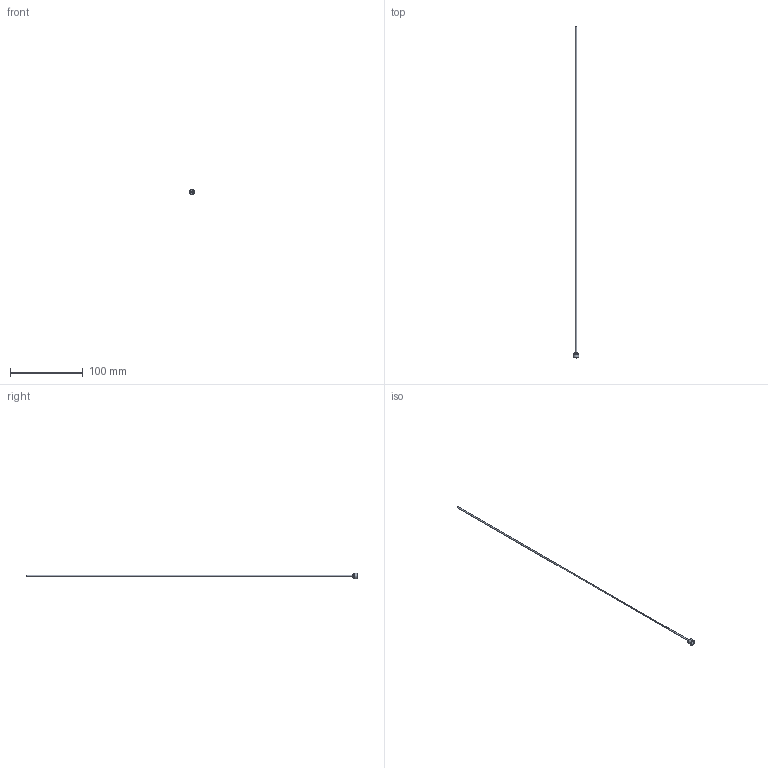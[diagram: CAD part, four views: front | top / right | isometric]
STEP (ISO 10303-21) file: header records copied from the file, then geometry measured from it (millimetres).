
FILE_DESCRIPTION(/* description */ (''),/* implementation_level */ '2;1');
FILE_NAME(/* name */ 'C:/Users/drich/Desktop/PT16-072-18 v1.step',/* time_stamp */ '2019-12-27T15:13:38-06:00',/* author */ (''),/* organization */ (''),/* preprocessor_version */ 'ST-DEVELOPER v18',/* originating_system */ 'Autodesk Translation Framework v8.12.0.6',/* authorisation */ '');
FILE_SCHEMA (('AUTOMOTIVE_DESIGN { 1 0 10303 214 3 1 1 }'));
Length unit declared in the file: inch
Products named in the file (1): PT16-072-18
Bounding box: 7.62 x 457.2 x 7.62 mm (x, y, z)
Volume: 599.1 mm3; surface area: 5042.4 mm2
Topology: 1 solids, 1 shells, 19 faces, 48 edges, 34 vertices
Faces by surface type: plane 11, cylinder 4, torus 2, cone 2
Full cylindrical faces by diameter (mm): 1.524 x1, 1.829 x1, 4.724 x1, 7.616 x1
Entity records: 633 total; most frequent: DIRECTION 112, CARTESIAN_POINT 102, ORIENTED_EDGE 96, EDGE_CURVE 48, AXIS2_PLACEMENT_3D 44, VERTEX_POINT 34, CIRCLE 24, EDGE_LOOP 24
